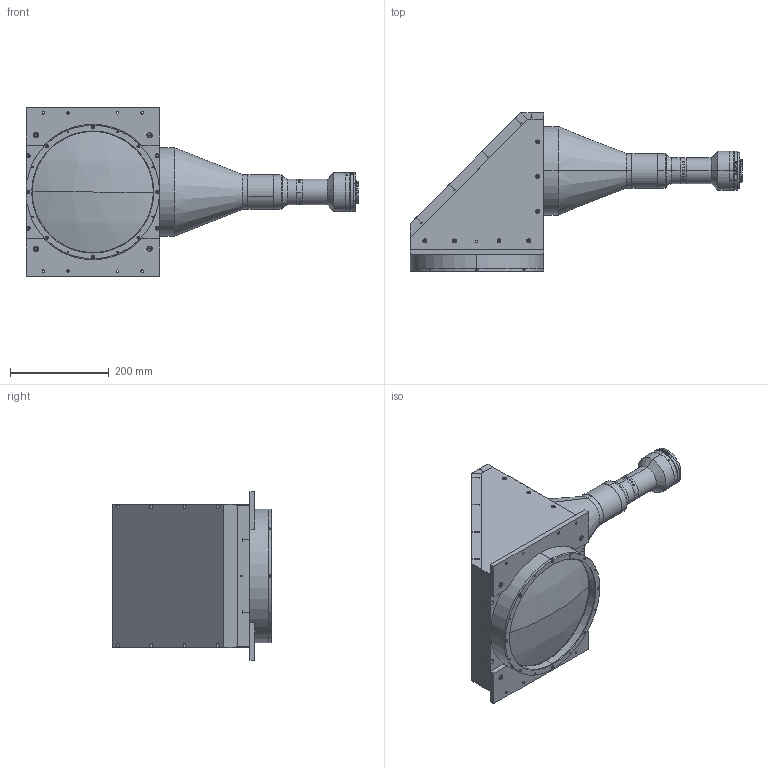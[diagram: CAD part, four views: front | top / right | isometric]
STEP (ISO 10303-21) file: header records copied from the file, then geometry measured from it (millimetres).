
FILE_DESCRIPTION (( 'STEP AP203' ), '1' );
FILE_NAME ('XF-PTL23838-F-L90E.STEP', '2019-07-22T06:50:01', ( 'puyufan' ), ( '' ), 'SwSTEP 2.0', 'SolidWorks 2014', '' );
FILE_SCHEMA (( 'CONFIG_CONTROL_DESIGN' ));
Length unit declared in the file: millimetre
Products named in the file (1): XF-PTL23838-F-L90E
Bounding box: 671.36 x 320.14 x 340 mm (x, y, z)
Surface area: 782546.4 mm2 (no closed solid volume)
Topology: 0 solids, 97 shells, 673 faces, 2734 edges, 2133 vertices
Faces by surface type: plane 278, cylinder 254, torus 86, cone 50, sphere 4, bspline 1
Entity records: 34350 total; most frequent: CARTESIAN_POINT 11460, DIRECTION 4942, ORIENTED_EDGE 3876, EDGE_CURVE 2708, VERTEX_POINT 2133, AXIS2_PLACEMENT_3D 1841, VECTOR 1260, LINE 1260
